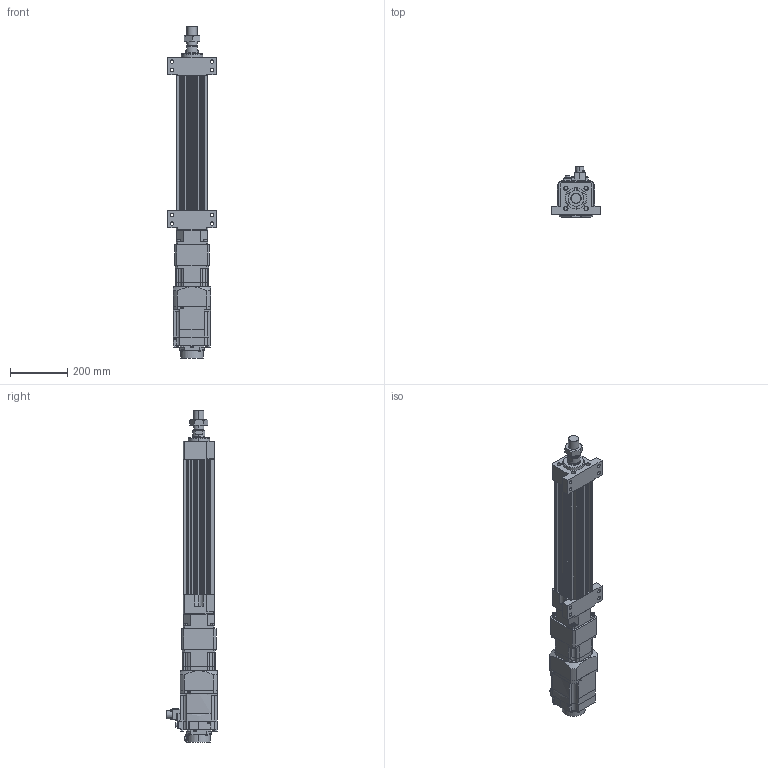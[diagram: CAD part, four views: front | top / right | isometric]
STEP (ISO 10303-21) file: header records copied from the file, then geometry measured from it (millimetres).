
FILE_DESCRIPTION (( 'STEP AP203' ), '1' );
FILE_NAME ('HES110NS(HS)-S300-W015G00-M-FFB.STEP', '2026-06-10T05:59:35', ( 'tms' ), ( '' ), 'SwSTEP 2.0', 'SolidWorks 2013', '' );
FILE_SCHEMA (( 'CONFIG_CONTROL_DESIGN' ));
Length unit declared in the file: millimetre
Products named in the file (8): AB1152; HES110NS(HS)-S300-W015G00-M-FFB; AB1151; M36X1.5P; HG-SR152B; HES110-FFB-300; HES110-S-G120; HES110-M-ROD-300
Assembly tree (7 placements, depth 2):
  HES110NS(HS)-S300-W015G00-M-FFB
    HES110-FFB-300
    HES110-M-ROD-300
    M36X1.5P
    HES110-S-G120
    AB1151
    AB1152
    HG-SR152B
Bounding box: 170 x 177.49 x 1156 mm (x, y, z)
Volume: 7926313.4 mm3; surface area: 1028747.1 mm2
Topology: 5 solids, 12 shells, 1199 faces, 3044 edges, 1985 vertices
Faces by surface type: plane 561, cylinder 554, cone 70, bspline 10, torus 4
Entity records: 38159 total; most frequent: CARTESIAN_POINT 7343, DIRECTION 6579, ORIENTED_EDGE 6060, EDGE_CURVE 3040, AXIS2_PLACEMENT_3D 2434, VERTEX_POINT 1985, VECTOR 1711, LINE 1711
